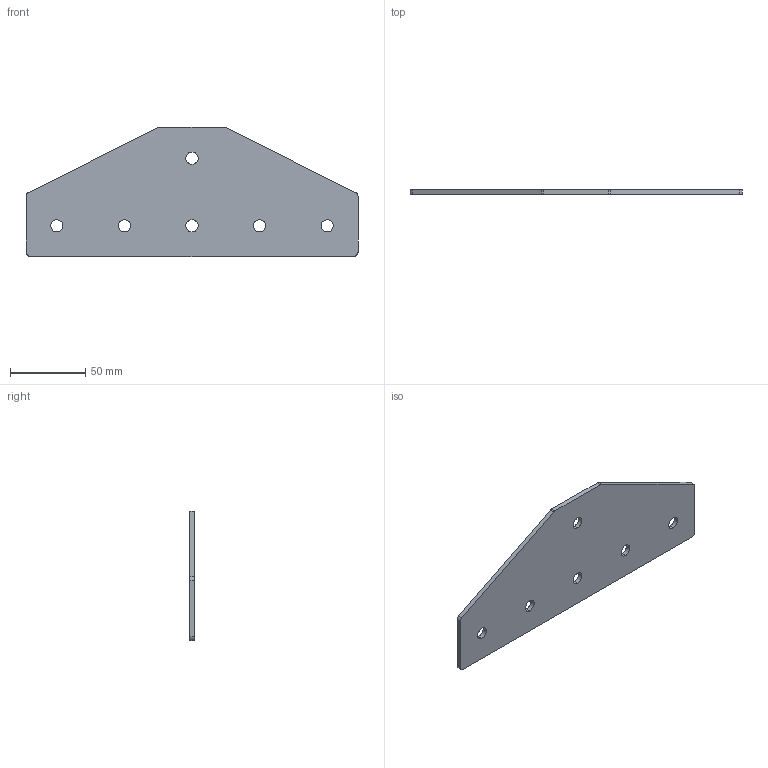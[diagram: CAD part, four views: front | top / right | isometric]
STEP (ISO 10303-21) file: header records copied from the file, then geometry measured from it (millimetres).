
FILE_DESCRIPTION (( 'STEP AP203' ), '1' );
FILE_NAME ('ﾒ-6-ﾓ-45.STEP', '2016-07-22T10:28:56', ( '' ), ( '' ), 'SwSTEP 2.0', 'SolidWorks 2014', '' );
FILE_SCHEMA (( 'CONFIG_CONTROL_DESIGN' ));
Length unit declared in the file: millimetre
Products named in the file (1): ﾒ-6-ﾓ-45
Bounding box: 221 x 3 x 86 mm (x, y, z)
Surface area: 31633.5 mm2 (no closed solid volume)
Topology: 0 solids, 1 shells, 26 faces, 72 edges, 48 vertices
Faces by surface type: cylinder 18, plane 8
Entity records: 953 total; most frequent: DIRECTION 162, CARTESIAN_POINT 147, ORIENTED_EDGE 144, EDGE_CURVE 72, AXIS2_PLACEMENT_3D 63, VERTEX_POINT 48, EDGE_LOOP 38, CIRCLE 36
